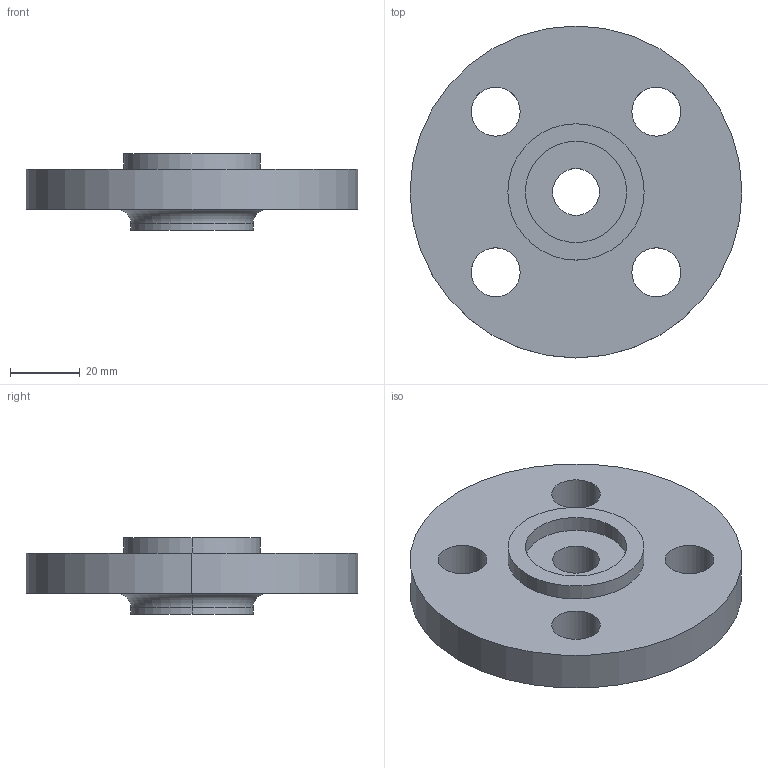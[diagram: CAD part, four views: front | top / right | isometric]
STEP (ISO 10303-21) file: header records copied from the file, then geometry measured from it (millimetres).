
FILE_DESCRIPTION (( 'STEP AP214' ), '1' );
FILE_NAME ('PN40 DN15 Type 13 - Type C Face.STEP', '2018-12-29T14:35:45', ( '' ), ( '' ), 'SwSTEP 2.0', 'SolidWorks 2019', '' );
FILE_SCHEMA (( 'AUTOMOTIVE_DESIGN' ));
Length unit declared in the file: millimetre
Products named in the file (1): PN40 DN15 Type 13 - Type C Face
Bounding box: 95 x 95 x 22 mm (x, y, z)
Volume: 80547.1 mm3; surface area: 20294.1 mm2
Topology: 1 solids, 1 shells, 25 faces, 58 edges, 38 vertices
Faces by surface type: cylinder 18, plane 5, torus 2
Entity records: 790 total; most frequent: DIRECTION 150, CARTESIAN_POINT 122, ORIENTED_EDGE 116, AXIS2_PLACEMENT_3D 66, EDGE_CURVE 58, CIRCLE 40, VERTEX_POINT 38, EDGE_LOOP 38
